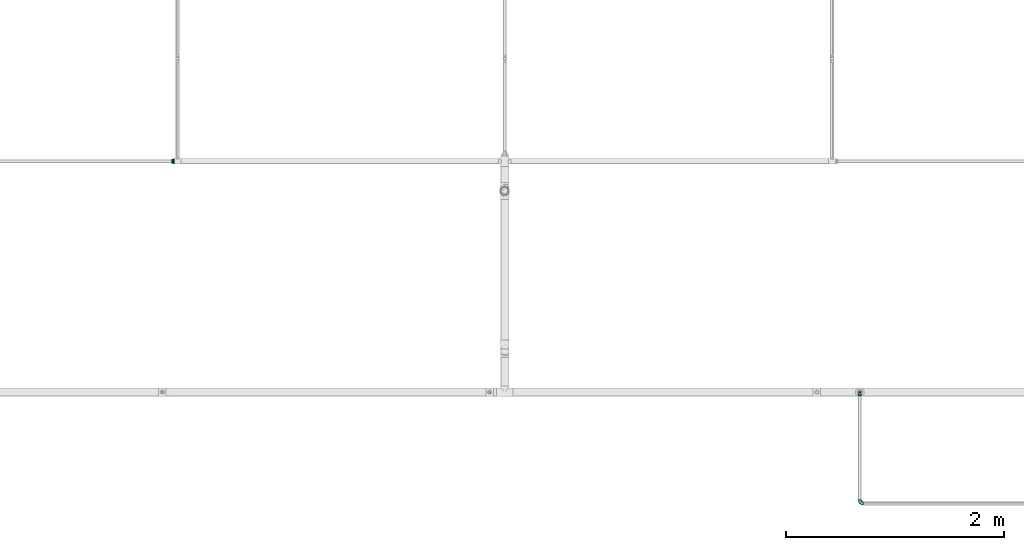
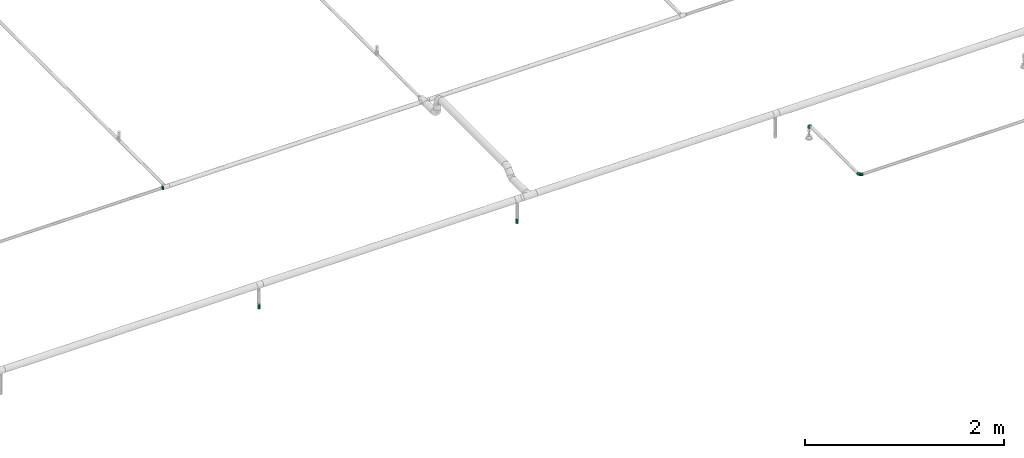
# One storey, part 30 of 45: 3 flow fittings, 2 flow terminals.
"""IFC2X3 building model written with IfcOpenShell, lengths in millimetres."""

from ifc_helpers import new_model, entity, si_unit, converted_unit, derived_unit, direction, frame, origin_with_axes, place, context, subcontext, project, spatial, open_shell, surface_model, source, transform, mapped, type_object, element, save


model = new_model("IFC2X3")

# Units and contexts
model_context = context("Model", 3, precision=0.01, world=frame((0.0, 4.29681676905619e-09, 0.0)), true_north=direction((4.01073788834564e-13, 1.0)))
plan_context = context("Plan", 3, precision=0.01, world=frame((0.0, 4.29681676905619e-09, 0.0)), true_north=direction((4.01073788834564e-13, 1.0)))
body_context = subcontext(model_context, "Body", "Model", "MODEL_VIEW")
ifc_project = project(units=[converted_unit("PLANEANGLEUNIT", "DEGREE", entity("IfcPositiveLengthMeasure", 0.0174532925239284), si_unit("PLANEANGLEUNIT", "RADIAN"), dimensions=[0, 0, 0, 0, 0, 0, 0]), si_unit("AREAUNIT", "SQUARE_METRE"), si_unit("LENGTHUNIT", "METRE", prefix="MILLI"), si_unit("MASSUNIT", "GRAM", prefix="KILO"), si_unit("POWERUNIT", "WATT"), si_unit("PRESSUREUNIT", "PASCAL", prefix="KILO"), si_unit("FORCEUNIT", "NEWTON", prefix="KILO"), si_unit("ELECTRICVOLTAGEUNIT", "VOLT"), si_unit("ELECTRICCURRENTUNIT", "AMPERE"), si_unit("THERMODYNAMICTEMPERATUREUNIT", "DEGREE_CELSIUS"), si_unit("TIMEUNIT", "SECOND"), si_unit("VOLUMEUNIT", "CUBIC_METRE"), derived_unit("LINEARVELOCITYUNIT", [(si_unit("LENGTHUNIT", "METRE"), 1), (si_unit("TIMEUNIT", "SECOND"), -1)]), derived_unit("VOLUMETRICFLOWRATEUNIT", [(si_unit("VOLUMEUNIT", "CUBIC_METRE"), 1), (si_unit("TIMEUNIT", "SECOND"), -1)]), derived_unit("THERMALTRANSMITTANCEUNIT", [(si_unit("POWERUNIT", "WATT"), 1), (si_unit("THERMODYNAMICTEMPERATUREUNIT", "KELVIN"), -1), (si_unit("AREAUNIT", "SQUARE_METRE"), -1)]), derived_unit("SOUNDPRESSUREUNIT", [(si_unit("PRESSUREUNIT", "PASCAL"), 1)])], contexts=[model_context, plan_context])

# Site, building, storey
site_placement = place(None, frame((0.0, -4.29681676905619e-09, 0.0), z_axis=(0.0, 0.0, 1.0), x_axis=(1.0, 0.0, 0.0)))
site = spatial("IfcSite", under=ifc_project, at=site_placement, CompositionType="ELEMENT")
building_placement = place(site_placement, frame((0.0, 4.29681676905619e-09, 0.0), z_axis=(0.0, 0.0, 1.0), x_axis=(1.0, 0.0, 0.0)))
building = spatial("IfcBuilding", under=site, at=building_placement, Name="mc-building", CompositionType="ELEMENT")
storey_placement = place(building_placement, frame((0.0, 0.0, 210200.0), z_axis=(0.0, 0.0, 1.0), x_axis=(1.0, 0.0, 0.0)))
storey = spatial("IfcBuildingStorey", under=building, at=storey_placement, Name="Nivå F - 0,7 m", CompositionType="ELEMENT", Elevation=210200.0)

# Flow fittings
pipe_fitting_type_1 = type_object("IfcPipeFittingType", Name="magi_pipe_fe_elbow_short_001", PredefinedType="BEND")
shared_shape_1 = source(origin_with_axes(), body_context, "Body", "SurfaceModel", [
    surface_model("IfcShellBasedSurfaceModel", [(-33.8, -11.9501, -11.9501), (-33.8, -14.63583, -8.45), (-33.8, -8.45, -14.63583), (-33.8, 0.0, -16.9), (-33.8, -4.37404, -16.32415), (-33.8, -16.32415, -4.37404), (-33.8, -16.9, 0.0), (-33.8, 11.9501, 11.9501), (-33.8, 14.63583, 8.45), (-33.8, 8.45, 14.63583), (-33.8, -11.9501, 11.9501), (-33.8, -8.45, 14.63583), (-33.8, -14.63583, 8.45), (-33.8, -16.32415, 4.37404), (-33.8, -4.37404, 16.32415), (-33.8, 0.0, 16.9), (-33.8, 16.9, 0.0), (-33.8, 16.32415, -4.37404), (-33.8, 16.32415, 4.37404), (-33.8, 4.37404, -16.32415), (-33.8, 8.45, -14.63583), (-33.8, 14.63583, -8.45), (-33.8, 11.9501, -11.9501), (-33.8, 4.37404, 16.32415), (-4.37404, 33.8, -16.32415), (16.9, 33.8, 0.0), (0.0, 33.8, -16.9), (-16.32415, 33.8, -4.37404), (-8.45, 33.8, -14.63583), (-14.63583, 33.8, -8.45), (-11.9501, 33.8, -11.9501), (16.32415, 33.8, 4.37404), (8.45, 33.8, -14.63583), (14.63583, 33.8, -8.45), (11.9501, 33.8, -11.9501), (4.37404, 33.8, -16.32415), (16.32415, 33.8, -4.37404), (-16.32415, 33.8, 4.37404), (-4.37404, 33.8, 16.32415), (-14.63583, 33.8, 8.45), (-8.45, 33.8, 14.63583), (-11.9501, 33.8, 11.9501), (14.63583, 33.8, 8.45), (8.45, 33.8, 14.63583), (11.9501, 33.8, 11.9501), (0.0, 33.8, 16.9), (4.37404, 33.8, 16.32415), (-16.9, 33.8, 0.0), (-24.79389, -13.12945, 9.48721), (-22.19287, -9.75018, 12.59315), (-24.09897, -14.97035, 0.0), (-14.93934, -10.76256, 8.5297), (-22.46095, -14.75051, 5.27077), (14.75051, 22.46094, 5.27077), (11.9251, 13.23888, 4.33236), (13.04069, 14.39795, 0.0), (7.71387, 13.68847, 11.55891), (9.75018, 22.19287, 12.59315), (4.10169, 13.0571, 14.04018), (-24.84007, -6.39063, 15.2048), (-25.81779, -2.23879, 16.61097), (-23.66549, 2.59054, 16.87119), (-26.50418, 14.06512, 11.08152), (-24.21253, 17.66365, 7.72657), (-29.58514, 15.86957, 7.00283), (-6.17382, -7.5455, 0.0), (-13.23888, -11.9251, 4.33236), (-14.39795, -13.04069, 0.0), (-17.81434, 18.87373, 11.97104), (-6.30846, 29.15138, 15.82987), (-2.31622, 25.28002, 16.85849), (-29.23923, 10.23435, 13.77053), (-1.45439, -2.85688, 7.61475), (-0.28326, 0.34872, 10.09509), (-5.74484, -4.04709, 10.4122), (-4.41137, 11.31918, 16.59407), (-8.39727, 3.10034, 15.7812), (-1.72649, 9.1306, 15.53089), (-17.39909, 24.75344, 7.64977), (-26.19233, 20.0512, 0.0), (-28.14518, 17.29657, 4.25857), (-26.05147, 6.6281, 15.96447), (-5.87354, 16.61944, 16.86968), (-12.51807, 12.51807, 16.48937), (-10.06312, 7.38516, 16.81295), (-3.01882, 3.01882, 13.81718), (-13.0571, -4.10169, 14.04018), (-16.82553, -0.15166, 16.38038), (10.76256, 14.93934, 8.5297), (13.12945, 24.79389, 9.48721), (6.39063, 24.84007, 15.2048), (2.23879, 25.81779, 16.61097), (-13.68847, -7.71387, 11.55891), (14.97035, 24.09897, 0.0), (-7.30894, 22.89991, 16.09489), (-10.67958, 26.17414, 14.008), (-12.78295, 18.26924, 15.06066), (-13.88562, 22.45231, 12.93244), (-18.04944, 15.16501, 14.04434), (-23.11658, 20.08178, 4.02986), (-21.84989, 21.84989, 0.0), (-18.55817, 25.48277, 3.93065), (-13.95142, 26.94732, 11.03289), (-18.57098, 7.23906, 16.59756), (-16.58335, 4.14122, 16.89279), (-17.96666, 11.46709, 15.63151), (-9.84453, 17.54304, 16.18938), (0.15166, 16.82553, 16.38038), (-23.27207, 11.47201, 14.23154), (3.84842, 5.86994, 10.70473), (-8.0212, -7.54413, 7.93275), (1.00345, -2.19508, 4.57414), (5.13203, 3.01004, 5.90201), (5.24161, 1.7543, 2.53265), (8.70457, 7.04947, 3.99182), (-20.0512, 26.19233, 0.0), (8.4852, 8.76699, 7.09296), (-4.55488, -6.72064, 4.90681), (2.05031, -2.05031, 0.0), (7.5455, 6.17382, 0.0), (-26.75399, 2.1369, -16.845), (-14.61995, 24.73803, -11.27736), (-28.45274, -13.45335, -9.81895), (-26.00469, 6.63555, -15.96645), (-23.06726, 20.04573, -4.26202), (-13.80647, -4.26506, -14.17873), (-14.67501, -0.21081, -16.07388), (-6.7902, -0.2828, -13.8478), (-24.53586, 11.08096, -14.13417), (-26.72048, 14.00837, -11.05776), (10.0967, 24.44989, -12.75976), (5.83237, 21.40218, -15.03047), (6.66249, 28.54238, -15.38093), (-20.38182, 15.48705, -12.74596), (12.53268, 21.23441, -9.15363), (12.54494, 15.67504, -5.54878), (9.7522, 12.89279, -8.66343), (-15.65186, 19.64213, -13.01327), (-12.03528, 20.66498, -14.67665), (-15.61907, 15.61906, -14.83879), (-25.56551, -15.26206, 0.0), (-24.65452, -15.12934, -5.50955), (13.45335, 28.45274, -9.81895), (15.12934, 24.65452, -5.50955), (-7.35442, -8.31014, -5.65563), (-15.67504, -12.54494, -5.54878), (-24.44989, -10.0967, -12.75976), (0.16522, 0.41303, -9.71728), (-5.70658, -5.33066, -8.89288), (-5.13869, -2.37198, -11.53565), (-21.23441, -12.53268, -9.15363), (0.71146, 7.93863, -14.09382), (0.21081, 14.67501, -16.07388), (3.49291, 14.42772, -14.76381), (-24.89911, -2.13088, -16.591), (-28.54238, -6.66249, -15.38093), (-18.44386, -7.71663, -13.26957), (2.13088, 24.89911, -16.591), (-28.64342, 17.44413, -2.89318), (1.70017, -1.28722, -5.09504), (-16.57067, 26.81947, -7.36596), (-17.69055, 27.4263, -3.76405), (-12.89279, -9.7522, -8.66343), (-5.96611, 5.96611, -15.95814), (-20.53709, 20.09345, -8.28985), (-2.1369, 26.75399, -16.845), (-6.89872, 24.58781, -16.02578), (-10.60739, 26.53157, -13.98044), (-21.40218, -5.83237, -15.03047), (2.93192, 5.89627, -11.55917), (6.89393, 12.61842, -11.82233), (5.58056, 5.95325, -8.79455), (-3.99512, 18.61798, -16.89635), (8.31014, 7.35442, -5.65563), (-9.1383, 9.86148, -16.89041), (-9.99983, 16.02119, -16.39699), (-16.68576, 9.78031, -16.34199), (-27.01915, 16.61158, -7.12979), (15.26206, 25.56551, 0.0), (-18.61798, 3.99512, -16.89635), (-19.37495, 27.82495, 0.0), (-12.61842, -6.89393, -11.82233), (-18.84705, 19.14018, -10.96545)], [open_shell([[[0, 1, 2]], [[3, 4, 2]], [[5, 6, 1]], [[7, 8, 9]], [[10, 11, 12]], [[13, 12, 11]], [[14, 15, 11]], [[16, 17, 18]], [[3, 6, 19]], [[20, 19, 17]], [[20, 17, 21]], [[22, 20, 21]], [[17, 19, 6]], [[2, 1, 6]], [[2, 6, 3]], [[6, 18, 17]], [[23, 18, 6]], [[8, 18, 23]], [[8, 23, 9]], [[13, 23, 6]], [[23, 13, 11]], [[11, 15, 23]], [[24, 25, 26]], [[27, 24, 28]], [[29, 27, 28]], [[29, 28, 30]], [[31, 25, 24]], [[32, 33, 34]], [[32, 35, 26]], [[33, 25, 36]], [[33, 32, 26]], [[25, 33, 26]], [[24, 27, 37]], [[31, 24, 37]], [[38, 37, 39]], [[40, 38, 39]], [[40, 39, 41]], [[31, 37, 38]], [[42, 43, 44]], [[43, 42, 31]], [[43, 45, 46]], [[43, 31, 38]], [[38, 45, 43]], [[37, 27, 47]], [[10, 48, 49]], [[13, 6, 50]], [[51, 48, 52]], [[53, 54, 55]], [[48, 10, 12]], [[13, 52, 12]], [[56, 57, 58]], [[49, 11, 10]], [[49, 59, 11]], [[15, 60, 61]], [[62, 63, 64]], [[65, 66, 67]], [[57, 44, 43]], [[62, 68, 63]], [[38, 69, 70]], [[9, 71, 7]], [[14, 60, 15]], [[72, 73, 74]], [[75, 76, 77]], [[7, 62, 8]], [[39, 37, 78]], [[79, 16, 80]], [[64, 18, 8]], [[15, 61, 23]], [[23, 81, 9]], [[82, 83, 84]], [[74, 85, 86]], [[59, 86, 87]], [[88, 89, 57]], [[90, 43, 46]], [[42, 53, 31]], [[46, 45, 91]], [[54, 53, 88]], [[42, 89, 53]], [[92, 86, 49]], [[89, 42, 44]], [[11, 59, 14]], [[53, 55, 93]], [[93, 31, 53]], [[66, 52, 67]], [[94, 82, 70]], [[95, 96, 94]], [[97, 98, 96]], [[79, 99, 100]], [[40, 41, 95]], [[101, 100, 99]], [[68, 78, 63]], [[38, 40, 69]], [[16, 18, 80]], [[95, 94, 69]], [[78, 101, 99]], [[41, 102, 95]], [[70, 45, 38]], [[97, 95, 102]], [[13, 50, 52]], [[90, 57, 43]], [[57, 90, 58]], [[81, 23, 61]], [[103, 104, 84]], [[105, 81, 103]], [[41, 39, 102]], [[106, 96, 83]], [[94, 106, 82]], [[91, 70, 107]], [[71, 62, 7]], [[62, 108, 98]], [[86, 59, 49]], [[67, 52, 50]], [[60, 59, 87]], [[92, 49, 51]], [[86, 85, 76]], [[91, 90, 46]], [[25, 31, 93]], [[107, 77, 58]], [[107, 58, 90]], [[58, 85, 109]], [[110, 74, 92]], [[72, 74, 110]], [[66, 51, 52]], [[72, 111, 112]], [[113, 114, 112]], [[56, 88, 57]], [[52, 48, 12]], [[49, 48, 51]], [[57, 89, 44]], [[53, 89, 88]], [[103, 81, 61]], [[71, 81, 108]], [[18, 64, 80]], [[63, 78, 99]], [[47, 115, 101]], [[101, 115, 100]], [[39, 78, 102]], [[68, 102, 78]], [[97, 96, 95]], [[105, 98, 108]], [[103, 84, 83]], [[107, 70, 82]], [[76, 84, 87]], [[82, 84, 75]], [[70, 91, 45]], [[90, 91, 107]], [[59, 60, 14]], [[61, 60, 87]], [[73, 85, 74]], [[109, 112, 116]], [[103, 61, 104]], [[105, 103, 83]], [[96, 105, 83]], [[81, 105, 108]], [[96, 98, 105]], [[62, 98, 68]], [[61, 87, 104]], [[87, 84, 104]], [[86, 76, 87]], [[77, 76, 85]], [[58, 77, 85]], [[75, 77, 107]], [[82, 75, 107]], [[76, 75, 84]], [[81, 71, 9]], [[62, 71, 108]], [[95, 69, 40]], [[70, 69, 94]], [[62, 64, 8]], [[80, 63, 99]], [[63, 80, 64]], [[80, 99, 79]], [[66, 65, 117]], [[110, 66, 117]], [[112, 114, 116]], [[118, 117, 65]], [[110, 92, 51]], [[112, 111, 113]], [[119, 55, 54]], [[74, 86, 92]], [[58, 109, 56]], [[116, 56, 109]], [[66, 110, 51]], [[72, 110, 117]], [[111, 72, 117]], [[73, 112, 109]], [[117, 118, 111]], [[113, 111, 118]], [[118, 119, 113]], [[114, 119, 54]], [[119, 114, 113]], [[116, 54, 88]], [[54, 116, 114]], [[116, 88, 56]], [[112, 73, 72]], [[85, 73, 109]], [[78, 37, 101]], [[47, 101, 37]], [[102, 68, 97]], [[97, 68, 98]], [[82, 106, 83]], [[94, 96, 106]], [[19, 120, 3]], [[29, 30, 121]], [[0, 122, 1]], [[20, 123, 19]], [[100, 124, 79]], [[125, 126, 127]], [[128, 22, 129]], [[130, 131, 132]], [[128, 129, 133]], [[134, 135, 136]], [[137, 138, 139]], [[128, 20, 22]], [[67, 140, 141]], [[134, 142, 143]], [[141, 5, 1]], [[144, 65, 145]], [[146, 0, 2]], [[147, 148, 149]], [[145, 141, 150]], [[151, 152, 153]], [[154, 4, 3]], [[2, 155, 146]], [[150, 146, 156]], [[155, 2, 4]], [[143, 135, 134]], [[35, 157, 26]], [[16, 79, 158]], [[148, 159, 144]], [[160, 161, 27]], [[145, 162, 144]], [[163, 152, 151]], [[27, 29, 160]], [[121, 164, 160]], [[32, 34, 130]], [[26, 165, 24]], [[24, 165, 166]], [[142, 34, 33]], [[30, 28, 167]], [[124, 161, 164]], [[157, 35, 132]], [[155, 154, 168]], [[123, 20, 128]], [[169, 170, 171]], [[172, 157, 152]], [[24, 166, 28]], [[132, 35, 32]], [[142, 130, 34]], [[168, 154, 126]], [[136, 135, 173]], [[133, 137, 139]], [[22, 21, 129]], [[170, 131, 130]], [[33, 36, 143]], [[172, 174, 175]], [[176, 123, 128]], [[158, 177, 17]], [[135, 55, 119]], [[167, 28, 166]], [[175, 166, 172]], [[137, 167, 138]], [[122, 141, 1]], [[140, 6, 5]], [[36, 25, 178]], [[170, 130, 134]], [[152, 157, 131]], [[165, 157, 172]], [[153, 170, 151]], [[152, 163, 174]], [[168, 125, 156]], [[122, 146, 150]], [[120, 154, 3]], [[179, 174, 126]], [[179, 126, 154]], [[126, 163, 127]], [[162, 145, 150]], [[140, 5, 141]], [[36, 178, 143]], [[55, 143, 178]], [[177, 129, 21]], [[128, 133, 139]], [[176, 128, 139]], [[120, 123, 179]], [[121, 160, 29]], [[161, 100, 180]], [[166, 175, 138]], [[121, 30, 167]], [[161, 47, 27]], [[79, 124, 158]], [[124, 164, 177]], [[161, 124, 100]], [[136, 171, 170]], [[127, 163, 151]], [[147, 171, 159]], [[148, 144, 162]], [[127, 151, 169]], [[127, 181, 125]], [[129, 177, 164]], [[21, 17, 177]], [[159, 65, 144]], [[67, 141, 145]], [[143, 55, 135]], [[135, 119, 173]], [[123, 120, 19]], [[154, 120, 179]], [[157, 165, 26]], [[166, 165, 172]], [[172, 152, 174]], [[176, 139, 175]], [[126, 174, 163]], [[176, 174, 179]], [[174, 176, 175]], [[123, 176, 179]], [[150, 181, 162]], [[127, 149, 181]], [[181, 148, 162]], [[159, 148, 147]], [[171, 136, 173]], [[170, 134, 136]], [[159, 171, 173]], [[171, 147, 169]], [[169, 147, 149]], [[151, 170, 169]], [[164, 182, 129]], [[182, 121, 137]], [[181, 149, 148]], [[169, 149, 127]], [[182, 137, 133]], [[167, 137, 121]], [[166, 138, 167]], [[175, 139, 138]], [[129, 182, 133]], [[121, 182, 164]], [[161, 160, 164]], [[47, 161, 180]], [[177, 158, 124]], [[16, 158, 17]], [[130, 132, 32]], [[157, 132, 131]], [[143, 142, 33]], [[130, 142, 134]], [[154, 155, 4]], [[146, 155, 168]], [[146, 122, 0]], [[141, 122, 150]], [[152, 131, 153]], [[159, 119, 118]], [[67, 145, 65]], [[170, 153, 131]], [[119, 159, 173]], [[159, 118, 65]], [[156, 125, 181]], [[126, 125, 168]], [[150, 156, 181]], [[168, 156, 146]]])]),
])
for number, where, z_axis, x_axis, name in (
    (1, (344910.95175, 460120.00018, 2665.79999999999), (1.0, 0.0, 0.0), (0.0, 0.0, 1.0), "magi_pipe_fe_elbow_short_001"),
    (2, (344910.95175, 459100.00018, 2665.79999999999), (1.1999999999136e-05, 0.0, 0.999999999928), (0.0, -1.0, 0.0), "magi_pipe_fe_elbow_short_001"),
):
    element("IfcFlowFitting", number, at=place(storey_placement, frame(where, z_axis=z_axis, x_axis=x_axis)), inside=storey, type_object=pipe_fitting_type_1, Name=name, context=body_context, shape_type="MappedRepresentation", body=[
        mapped(shared_shape_1, transform((0.0, 0.0, 0.0), scale=1.0)),
    ])
pipe_fitting_type_2 = type_object("IfcPipeFittingType", Name="magi_pipe_fe_reducer_centric_short_001", PredefinedType="TRANSITION")
shared_shape_2 = source(origin_with_axes(), body_context, "Body", "SurfaceModel", [
    surface_model("IfcShellBasedSurfaceModel", [(-2.0, 0.0, 24.2), (-2.0, 6.26342, 23.37541), (-2.0, 12.1, 20.95781), (-2.0, 17.11198, 17.11198), (-2.0, 24.2, 0.0), (-2.0, 20.95781, 12.1), (-2.0, -23.37541, 6.26342), (-2.0, -17.11198, -17.11198), (-2.0, -6.26342, 23.37541), (-2.0, -17.11198, 17.11198), (-2.0, -12.1, 20.95781), (-2.0, -20.95781, 12.1), (-2.0, -24.2, 0.0), (-2.0, 23.37541, 6.26342), (-2.0, 23.37541, -6.26342), (-2.0, 6.26342, -23.37541), (-2.0, 17.11198, -17.11198), (-2.0, 20.95781, -12.1), (-2.0, 12.1, -20.95781), (-2.0, -23.37541, -6.26342), (-2.0, -20.95781, -12.1), (-2.0, -6.26342, -23.37541), (-2.0, -12.1, -20.95781), (-2.0, 0.0, -24.2), (0.0, 24.2, 0.0), (0.0, 6.26342, -23.37541), (0.0, 12.1, -20.95781), (0.0, 23.37541, -6.26342), (0.0, 17.11198, -17.11198), (0.0, 20.95781, -12.1), (0.0, -24.2, 0.0), (0.0, -12.1, -20.95781), (0.0, -6.26342, -23.37541), (0.0, 0.0, -24.2), (0.0, -17.11198, -17.11198), (0.0, -23.37541, -6.26342), (0.0, -20.95781, -12.1), (0.0, 20.95781, 12.1), (0.0, 17.11198, 17.11198), (0.0, 12.1, 20.95781), (0.0, 6.26342, 23.37541), (0.0, 0.0, 24.2), (0.0, -23.37541, 6.26342), (0.0, -17.11198, 17.11198), (0.0, -20.95781, 12.1), (0.0, -6.26342, 23.37541), (0.0, -12.1, 20.95781), (0.0, 23.37541, 6.26342), (0.0, 7.47821, 23.01557), (0.0, 19.57821, 14.2244), (0.0, -7.47821, 23.01557), (0.0, 7.47821, -23.01557), (0.0, 19.57821, -14.2244), (0.0, -7.47821, -23.01557), (0.0, -19.57821, -14.2244), (16.6, 4.37404, -16.32415), (16.6, 8.45, -14.63583), (16.6, 11.9501, -11.9501), (16.6, 0.0, -16.9), (16.6, 16.32415, -4.37404), (16.6, 16.32415, 4.37404), (16.6, 14.63583, -8.45), (16.6, -8.45, 14.63583), (16.6, -8.45, -14.63583), (16.6, -4.37404, -16.32415), (16.6, -11.9501, -11.9501), (16.6, -16.32415, -4.37404), (16.6, -14.63583, -8.45), (16.6, -16.32415, 4.37404), (16.6, 16.9, 0.0), (16.6, 14.63583, 8.45), (16.6, 11.9501, 11.9501), (16.6, 4.37404, 16.32415), (16.6, 8.45, 14.63583), (16.6, 0.0, 16.9), (16.6, -14.63583, 8.45), (16.6, -16.9, 0.0), (16.6, -11.9501, 11.9501), (16.6, -4.37404, 16.32415), (14.6, 11.9501, 11.9501), (14.6, 0.0, 16.9), (14.6, 4.37404, 16.32415), (14.6, 8.45, 14.63583), (14.6, 14.63583, 8.45), (14.6, 16.32415, 4.37404), (14.6, -16.32415, 4.37404), (14.6, -8.45, -14.63583), (14.6, -8.45, 14.63583), (14.6, -14.63583, 8.45), (14.6, -11.9501, 11.9501), (14.6, -4.37404, 16.32415), (14.6, -16.32415, -4.37404), (14.6, -16.9, 0.0), (14.6, 16.32415, -4.37404), (14.6, 11.9501, -11.9501), (14.6, 14.63583, -8.45), (14.6, 8.45, -14.63583), (14.6, 4.37404, -16.32415), (14.6, 0.0, -16.9), (14.6, -11.9501, -11.9501), (14.6, -14.63583, -8.45), (14.6, -4.37404, -16.32415), (14.6, 16.9, 0.0), (0.0, -19.57821, 14.2244), (14.6, -13.18758, -8.96258), (14.6, 14.42505, -5.97505), (0.0, 21.8891, -7.1122), (0.0, 13.52821, -18.61999), (0.0, 16.55321, -16.42219), (14.6, -14.42505, -5.97505), (0.0, -21.8891, -7.1122), (0.0, -20.73366, -10.6683), (14.6, 5.97505, -14.42505), (0.0, 0.0, -23.01557), (14.6, -2.98753, -15.66253), (14.6, 2.98753, -15.66253), (14.6, 8.96258, -13.18758), (14.6, 15.66253, -2.98753), (14.6, -15.66253, -2.98753), (0.0, -13.52821, -18.61999), (14.6, -5.97505, -14.42505), (14.6, -8.96258, -13.18758), (14.6, 13.18758, -8.96258), (14.6, 13.18758, 8.96258), (14.6, -14.42505, 5.97505), (0.0, -21.8891, 7.1122), (0.0, -13.52821, 18.61999), (0.0, -16.55321, 16.42219), (14.6, 14.42505, 5.97505), (0.0, 21.8891, 7.1122), (0.0, 20.73366, 10.6683), (14.6, -5.97505, 14.42505), (0.0, 0.0, 23.01557), (14.6, 2.98753, 15.66253), (14.6, -2.98753, 15.66253), (14.6, -8.96258, 13.18758), (14.6, -15.66253, 2.98753), (14.6, 15.66253, 2.98753), (0.0, 13.52821, 18.61999), (14.6, 5.97505, 14.42505), (14.6, 8.96258, 13.18758), (14.6, -13.18758, 8.96258)], [open_shell([[[0, 1, 2]], [[0, 2, 3]], [[4, 3, 5]], [[6, 0, 7]], [[0, 3, 7]], [[8, 9, 10]], [[8, 0, 9]], [[9, 6, 11]], [[0, 6, 9]], [[6, 7, 12]], [[4, 5, 13]], [[3, 14, 15]], [[16, 14, 17]], [[18, 15, 14]], [[18, 14, 16]], [[15, 7, 3]], [[19, 7, 20]], [[12, 7, 19]], [[15, 21, 22]], [[22, 7, 15]], [[21, 15, 23]], [[14, 3, 4]], [[24, 25, 26]], [[27, 26, 28]], [[27, 24, 26]], [[27, 28, 29]], [[25, 30, 31]], [[25, 32, 33]], [[25, 31, 32]], [[34, 35, 36]], [[34, 31, 30]], [[34, 30, 35]], [[25, 24, 37]], [[37, 38, 25]], [[25, 38, 30]], [[39, 40, 41]], [[39, 41, 38]], [[30, 38, 41]], [[42, 43, 44]], [[45, 42, 30]], [[43, 45, 46]], [[45, 43, 42]], [[30, 41, 45]], [[24, 47, 37]], [[19, 35, 12]], [[20, 36, 19]], [[31, 7, 22]], [[20, 7, 34]], [[32, 22, 21]], [[19, 36, 35]], [[35, 30, 12]], [[32, 31, 22]], [[34, 7, 31]], [[34, 36, 20]], [[33, 32, 21]], [[21, 23, 33]], [[15, 25, 23]], [[18, 26, 15]], [[29, 16, 17]], [[18, 16, 28]], [[27, 17, 14]], [[18, 28, 26]], [[26, 25, 15]], [[24, 27, 14]], [[29, 17, 27]], [[29, 28, 16]], [[4, 24, 14]], [[23, 25, 33]], [[13, 47, 4]], [[5, 37, 13]], [[39, 3, 2]], [[5, 3, 38]], [[40, 2, 1]], [[13, 37, 47]], [[47, 24, 4]], [[40, 39, 2]], [[38, 3, 39]], [[38, 37, 5]], [[41, 40, 1]], [[1, 0, 41]], [[8, 45, 0]], [[10, 46, 8]], [[44, 9, 11]], [[10, 9, 43]], [[42, 11, 6]], [[10, 43, 46]], [[46, 45, 8]], [[30, 42, 6]], [[44, 11, 42]], [[44, 43, 9]], [[12, 30, 6]], [[0, 45, 41]], [[48, 49, 50]], [[49, 51, 30]], [[52, 51, 49]], [[30, 53, 54]], [[30, 51, 53]], [[49, 24, 52]], [[55, 56, 57]], [[58, 55, 57]], [[57, 59, 60]], [[59, 57, 61]], [[57, 62, 63]], [[58, 63, 64]], [[58, 57, 63]], [[65, 66, 67]], [[66, 65, 63]], [[63, 68, 66]], [[60, 59, 69]], [[60, 70, 71]], [[60, 71, 72]], [[60, 72, 62]], [[72, 71, 73]], [[62, 72, 74]], [[68, 62, 75]], [[76, 66, 68]], [[75, 62, 77]], [[62, 68, 63]], [[74, 78, 62]], [[57, 60, 62]], [[79, 80, 81]], [[79, 81, 82]], [[79, 83, 84]], [[79, 84, 80]], [[85, 80, 86]], [[87, 88, 89]], [[88, 87, 90]], [[80, 88, 90]], [[80, 85, 88]], [[85, 91, 92]], [[86, 80, 84]], [[84, 93, 94]], [[94, 93, 95]], [[94, 96, 97]], [[86, 84, 94]], [[97, 98, 94]], [[91, 99, 100]], [[99, 91, 86]], [[86, 98, 101]], [[91, 85, 86]], [[94, 98, 86]], [[93, 84, 102]], [[91, 66, 92]], [[100, 67, 91]], [[63, 99, 86]], [[100, 99, 65]], [[64, 86, 101]], [[91, 67, 66]], [[66, 76, 92]], [[64, 63, 86]], [[65, 99, 63]], [[65, 67, 100]], [[58, 64, 101]], [[101, 98, 58]], [[97, 55, 98]], [[96, 56, 97]], [[61, 94, 95]], [[96, 94, 57]], [[59, 95, 93]], [[96, 57, 56]], [[56, 55, 97]], [[69, 59, 93]], [[61, 95, 59]], [[61, 57, 94]], [[102, 69, 93]], [[98, 55, 58]], [[84, 60, 102]], [[83, 70, 84]], [[73, 79, 82]], [[83, 79, 71]], [[72, 82, 81]], [[84, 70, 60]], [[60, 69, 102]], [[72, 73, 82]], [[71, 79, 73]], [[71, 70, 83]], [[74, 72, 81]], [[81, 80, 74]], [[90, 78, 80]], [[87, 62, 90]], [[75, 89, 88]], [[87, 89, 77]], [[68, 88, 85]], [[87, 77, 62]], [[62, 78, 90]], [[76, 68, 85]], [[75, 88, 68]], [[75, 77, 89]], [[92, 76, 85]], [[80, 78, 74]], [[80, 89, 102]], [[102, 79, 80]], [[89, 99, 102]], [[98, 102, 99]], [[94, 102, 98]], [[99, 89, 92]], [[50, 30, 103]], [[30, 50, 49]], [[54, 99, 104]], [[105, 52, 106]], [[94, 107, 108]], [[109, 110, 111]], [[51, 107, 112]], [[113, 114, 53]], [[113, 115, 98]], [[116, 112, 107]], [[24, 117, 106]], [[51, 115, 113]], [[30, 118, 92]], [[99, 54, 119]], [[119, 120, 121]], [[30, 110, 118]], [[117, 24, 102]], [[52, 105, 122]], [[114, 120, 53]], [[114, 113, 98]], [[51, 112, 115]], [[94, 108, 52]], [[109, 118, 110]], [[54, 104, 111]], [[104, 109, 111]], [[94, 52, 122]], [[120, 119, 53]], [[121, 99, 119]], [[117, 105, 106]], [[107, 94, 116]], [[49, 79, 123]], [[124, 103, 125]], [[89, 126, 127]], [[128, 129, 130]], [[50, 126, 131]], [[132, 133, 48]], [[132, 134, 80]], [[135, 131, 126]], [[30, 136, 125]], [[50, 134, 132]], [[24, 137, 102]], [[79, 49, 138]], [[138, 139, 140]], [[24, 129, 137]], [[136, 30, 92]], [[103, 124, 141]], [[133, 139, 48]], [[133, 132, 80]], [[50, 131, 134]], [[89, 127, 103]], [[128, 137, 129]], [[49, 123, 130]], [[123, 128, 130]], [[89, 103, 141]], [[139, 138, 48]], [[140, 79, 138]], [[136, 124, 125]], [[126, 89, 135]]])]),
])
flow_fitting_placement = place(storey_placement, frame((338623.7, 462235.84736, 2810.47099), z_axis=(7.99999999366e-06, -3.89999999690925e-05, 0.9999999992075), x_axis=(-0.999999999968, -3.11999999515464e-10, 7.999999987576e-06)))
element("IfcFlowFitting", 3, at=flow_fitting_placement, inside=storey, type_object=pipe_fitting_type_2, Name="magi_pipe_fe_reducer_centric_short_001", context=body_context, shape_type="MappedRepresentation", body=[
    mapped(shared_shape_2, transform((0.0, 0.0, 0.0), scale=1.0)),
])

# Flow terminals
fire_suppression_terminal_type = type_object("IfcFireSuppressionTerminalType", Name="SP-15-K80-68DGR-STD-HIMLING", PredefinedType="NOTDEFINED")
shared_shape_3 = source(origin_with_axes(), body_context, "Body", "SurfaceModel", [
    surface_model("IfcShellBasedSurfaceModel", [(4.1411, -15.45481, 53.0), (8.0, -13.85641, 53.0), (11.31371, -11.31371, 53.0), (-8.0, -13.85641, 53.0), (15.45481, -4.1411, 53.0), (16.0, 0.0, 53.0), (13.85641, -8.0, 53.0), (0.0, -16.0, 53.0), (-4.1411, -15.45481, 53.0), (-13.85641, -8.0, 53.0), (-11.31371, -11.31371, 53.0), (-15.45481, -4.1411, 53.0), (15.45481, 4.1411, 53.0), (13.85641, 8.0, 53.0), (11.31371, 11.31371, 53.0), (-4.1411, 15.45481, 53.0), (8.0, 13.85641, 53.0), (4.1411, 15.45481, 53.0), (0.0, 16.0, 53.0), (-13.85641, 8.0, 53.0), (-15.45481, 4.1411, 53.0), (-16.0, 0.0, 53.0), (-11.31371, 11.31371, 53.0), (-8.0, 13.85641, 53.0), (0.0, 16.0, 0.0), (4.1411, 15.45481, 0.0), (8.0, 13.85641, 0.0), (-4.1411, 15.45481, 0.0), (11.31371, 11.31371, 0.0), (13.85641, 8.0, 0.0), (15.45481, 4.1411, 0.0), (-15.45481, -4.1411, 0.0), (-11.31371, 11.31371, 0.0), (-8.0, 13.85641, 0.0), (-13.85641, 8.0, 0.0), (-15.45481, 4.1411, 0.0), (-16.0, 0.0, 0.0), (4.1411, -15.45481, 0.0), (16.0, 0.0, 0.0), (15.45481, -4.1411, 0.0), (13.85641, -8.0, 0.0), (11.31371, -11.31371, 0.0), (8.0, -13.85641, 0.0), (-8.0, -13.85641, 0.0), (-13.85641, -8.0, 0.0), (-11.31371, -11.31371, 0.0), (0.0, -16.0, 0.0), (-4.1411, -15.45481, 0.0)], [open_shell([[[0, 1, 2]], [[3, 0, 2]], [[4, 5, 2]], [[4, 2, 6]], [[3, 2, 5]], [[7, 3, 8]], [[7, 0, 3]], [[3, 9, 10]], [[9, 3, 11]], [[5, 11, 3]], [[5, 12, 11]], [[12, 13, 14]], [[15, 12, 14]], [[16, 17, 18]], [[14, 16, 15]], [[18, 15, 16]], [[11, 19, 20]], [[21, 11, 20]], [[22, 15, 23]], [[15, 22, 19]], [[19, 11, 15]], [[11, 12, 15]], [[24, 25, 26]], [[27, 24, 26]], [[28, 29, 30]], [[27, 26, 28]], [[27, 28, 31]], [[27, 32, 33]], [[32, 27, 34]], [[34, 31, 35]], [[31, 34, 27]], [[35, 31, 36]], [[28, 30, 31]], [[37, 38, 39]], [[37, 39, 40]], [[41, 42, 37]], [[41, 37, 40]], [[38, 37, 43]], [[44, 43, 45]], [[43, 44, 31]], [[43, 46, 47]], [[43, 31, 38]], [[37, 46, 43]], [[38, 31, 30]], [[11, 31, 44]], [[45, 9, 44]], [[3, 43, 47]], [[45, 43, 10]], [[8, 47, 46]], [[31, 21, 36]], [[31, 11, 21]], [[44, 9, 11]], [[45, 10, 9]], [[3, 10, 43]], [[47, 8, 3]], [[46, 7, 8]], [[0, 37, 42]], [[41, 1, 42]], [[6, 40, 39]], [[41, 40, 2]], [[4, 39, 38]], [[37, 0, 7]], [[42, 1, 0]], [[41, 2, 1]], [[40, 6, 2]], [[4, 6, 39]], [[38, 5, 4]], [[37, 7, 46]], [[12, 38, 30]], [[13, 30, 29]], [[16, 26, 25]], [[17, 25, 24]], [[30, 13, 12]], [[12, 5, 38]], [[28, 14, 13]], [[28, 26, 14]], [[14, 26, 16]], [[25, 17, 16]], [[28, 13, 29]], [[24, 18, 17]], [[15, 27, 33]], [[32, 23, 33]], [[19, 34, 35]], [[32, 34, 22]], [[20, 35, 36]], [[27, 15, 18]], [[33, 23, 15]], [[32, 22, 23]], [[34, 19, 22]], [[20, 19, 35]], [[36, 21, 20]], [[27, 18, 24]]])]),
])
for number, where, z_axis, x_axis in (
    (4, (338518.61043, 460120.00018, 2700.0), (0.0, 0.0, -1.0), (-1.0, 0.0, 0.0)),
    (5, (341518.61043, 460120.00018, 2700.0), (0.0, 0.0, -1.0), (-1.0, 0.0, 0.0)),
):
    element("IfcFlowTerminal", number, at=place(storey_placement, frame(where, z_axis=z_axis, x_axis=x_axis)), inside=storey, type_object=fire_suppression_terminal_type, Name="SP-15-K80-68DGR-STD-HIMLING", context=body_context, shape_type="MappedRepresentation", body=[
        mapped(shared_shape_3, transform((0.0, 0.0, 0.0), scale=1.0)),
    ])

save(model, "model.ifc")
